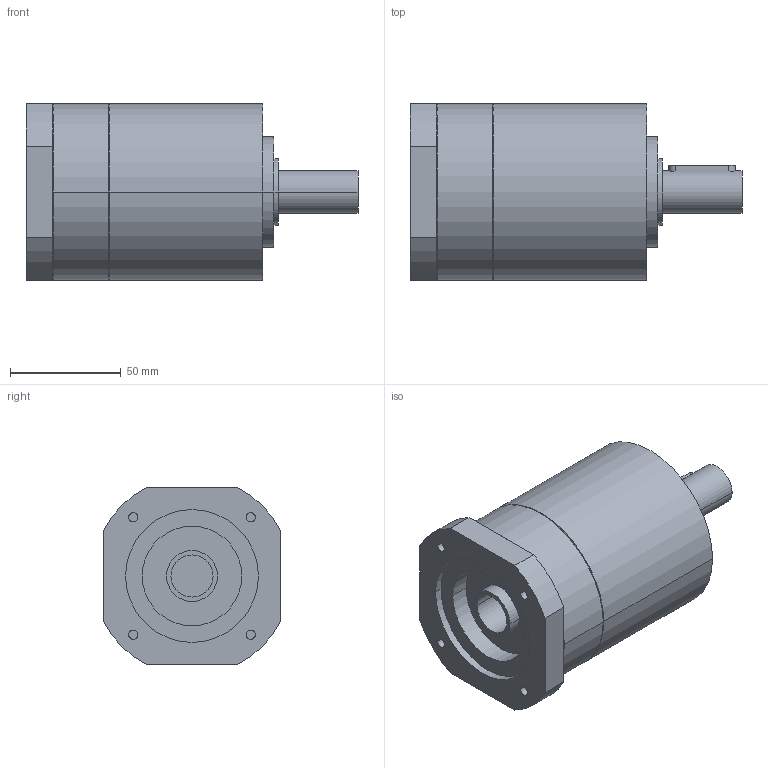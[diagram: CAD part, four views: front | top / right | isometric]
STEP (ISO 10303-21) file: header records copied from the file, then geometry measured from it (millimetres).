
FILE_DESCRIPTION(('CoCreate Modeling STEP Export'),'2;1');
FILE_NAME('GPR100_ig-3-4-5-6_19_B14_19_P23.stp','2014-08-26T10:08:52',(''),(''),'CoCreate Modeling STEP processor for AP214 (Solid Model)','CoCreate Modeling 16.00C 25-Feb-2009 (C) Parametric Technology GmbH','');
FILE_SCHEMA(('AUTOMOTIVE_DESIGN { 1 0 10303 214 1 1 1 1 }'));
Length unit declared in the file: millimetre
Products named in the file (2): GPR100_ig-3-4-5-6_19_B14_19_P23
Assembly tree (1 placements, depth 2):
  GPR100_ig-3-4-5-6_19_B14_19_P23
    GPR100_ig-3-4-5-6_19_B14_19_P23
Bounding box: 150 x 80 x 80 mm (x, y, z)
Volume: 535191.6 mm3; surface area: 48959.4 mm2
Topology: 1 solids, 1 shells, 74 faces, 188 edges, 132 vertices
Faces by surface type: cylinder 42, plane 26, cone 6
Entity records: 1943 total; most frequent: ORIENTED_EDGE 372, CARTESIAN_POINT 360, DIRECTION 262, EDGE_CURVE 186, VERTEX_POINT 132, AXIS2_PLACEMENT_3D 98, EDGE_LOOP 92, FACE_OUTER_BOUND 74
